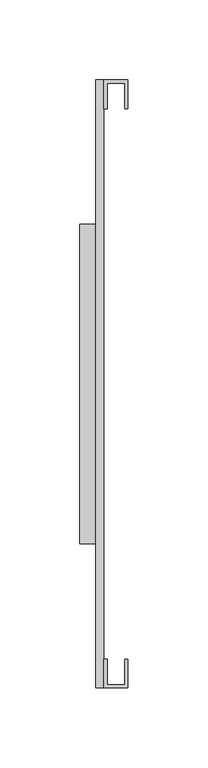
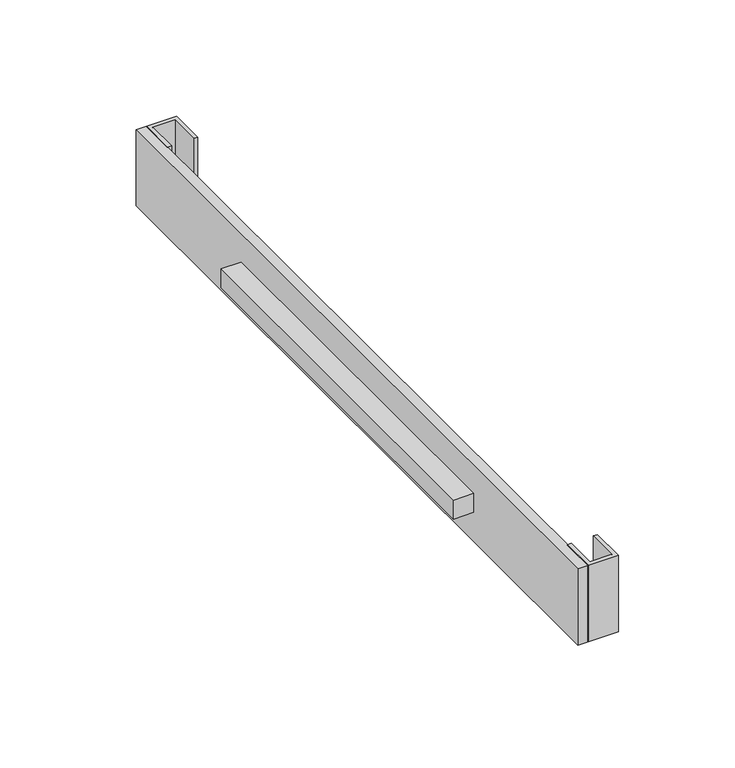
"""IFC4 building model written with IfcOpenShell, lengths in millimetres: proxy geometry, LVIB-MEXX-051."""

from ifc_helpers import new_model, si_unit, frame, origin, place, context, project, spatial, polyline, outline, extrude, source, transform, mapped, element, save


def generic_models_ecafa644(model_context):
    return source(origin(), model_context, "Body", "SweptSolid", [
        extrude(outline(polyline([(2.0, 18.0), (2.0, 2.0), (13.0, 2.0), (13.0, 18.0), (15.0, 18.0), (15.0, 0.0), (0.0, 0.0), (0.0, 18.0), (2.0, 18.0)])), frame((0.0, 0.0, -40.0), z_axis=(0.0, 0.0, 1.0), x_axis=(1.0, 0.0, 0.0)), (0.0, 0.0, 1.0), 40.0),
        extrude(outline(polyline([(2.0, 378.0), (2.0, 362.0), (0.0, 362.0), (0.0, 380.0), (15.0, 380.0), (15.0, 362.0), (13.0, 362.0), (13.0, 378.0), (2.0, 378.0)])), frame((0.0, 0.0, -40.0), z_axis=(0.0, 0.0, 1.0), x_axis=(1.0, 0.0, 0.0)), (0.0, 0.0, 1.0), 40.0),
        extrude(outline(polyline([(-5.0, 290.0), (-5.0, 90.0), (-15.0, 90.0), (-15.0, 290.0), (-5.0, 290.0)])), frame((0.0, 0.0, -25.0), z_axis=(0.0, 0.0, 1.0), x_axis=(1.0, 0.0, 0.0)), (0.0, 0.0, 1.0), 10.0),
        extrude(outline(polyline([(0.0, 380.0), (0.0, 0.0), (-5.0, 0.0), (-5.0, 380.0), (0.0, 380.0)])), frame((0.0, 0.0, -40.0), z_axis=(0.0, 0.0, 1.0), x_axis=(1.0, 0.0, 0.0)), (0.0, 0.0, 1.0), 40.0),
    ])


if __name__ == "__main__":
    model = new_model("IFC4")
    model_context = context("Model", 3, world=origin())
    ifc_project = project(units=[si_unit("LENGTHUNIT", "METRE", prefix="MILLI")], contexts=[model_context])
    site = spatial("IfcSite", under=ifc_project)
    building = spatial("IfcBuilding", under=site)
    placement = place(None, origin())
    generic_models_shape = generic_models_ecafa644(model_context)
    element("IfcBuildingElementProxy", 1, Name="LVIB-MEXX-051", ObjectType="LVIB-MEXX-051", at=placement, inside=building, context=model_context, shape_type="MappedRepresentation", body=[
        mapped(generic_models_shape, transform((0.0, 0.0, 0.0), x_axis=(1.0, 0.0, 0.0), y_axis=(0.0, 1.0, 0.0), z_axis=(0.0, 0.0, 1.0))),
    ])
    save(model, "model.ifc")
